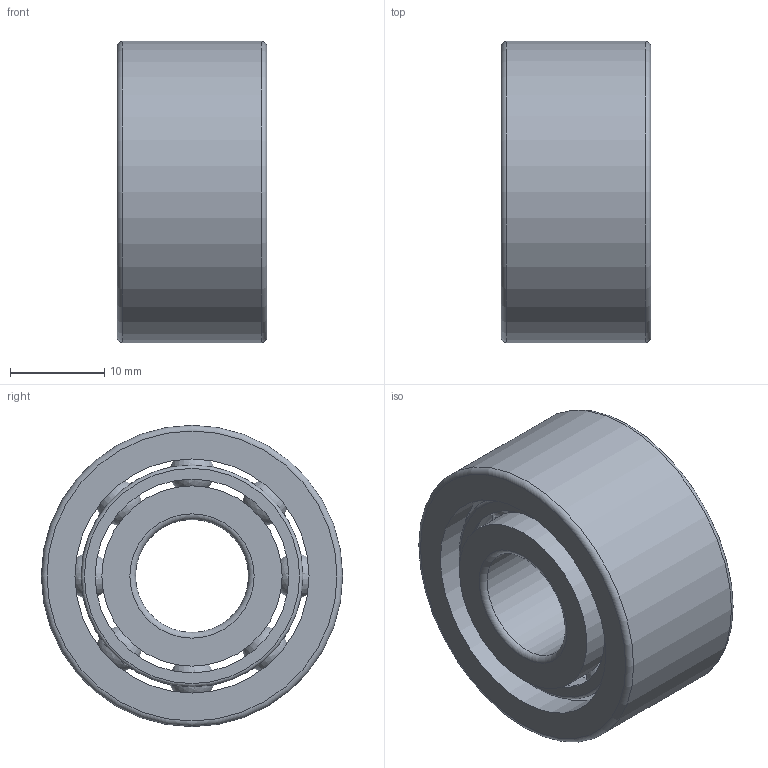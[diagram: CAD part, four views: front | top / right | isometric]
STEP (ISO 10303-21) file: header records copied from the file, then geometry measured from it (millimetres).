
FILE_DESCRIPTION(/* description */ (''),/* implementation_level */ '2;1');
FILE_NAME(/* name */ 'D:\moje\parametrické\32--,33--\32--\32--\3201.stp',/* time_stamp */ '2016-03-17T10:51:15+01:00',/* author */ ('OUBALASKO'),/* organization */ (''),/* preprocessor_version */ 'ST-DEVELOPER v15.2',/* originating_system */ 'Autodesk Inventor 2014',/* authorisation */ '');
FILE_SCHEMA (('AUTOMOTIVE_DESIGN { 1 0 10303 214 3 1 1 }'));
Length unit declared in the file: millimetre
Products named in the file (5): 3201-02; 3201-ball; 3201-cage; 3201-01; 3201
Bounding box: 15.9 x 32 x 32 mm (x, y, z)
Volume: 8225.1 mm3; surface area: 8026.8 mm2
Topology: 20 solids, 20 shells, 82 faces, 206 edges, 132 vertices
Faces by surface type: plane 24, sphere 16, bspline 16, cylinder 14, torus 12
Full cylindrical faces by diameter (mm): 12 x1, 19.143 x3, 20.571 x2, 22.952 x2, 23.552 x2, 24.857 x3, 32 x1
Entity records: 1966 total; most frequent: CARTESIAN_POINT 924, DIRECTION 208, ORIENTED_EDGE 150, AXIS2_PLACEMENT_3D 104, EDGE_CURVE 75, EDGE_LOOP 71, VERTEX_POINT 60, ADVANCED_FACE 44
